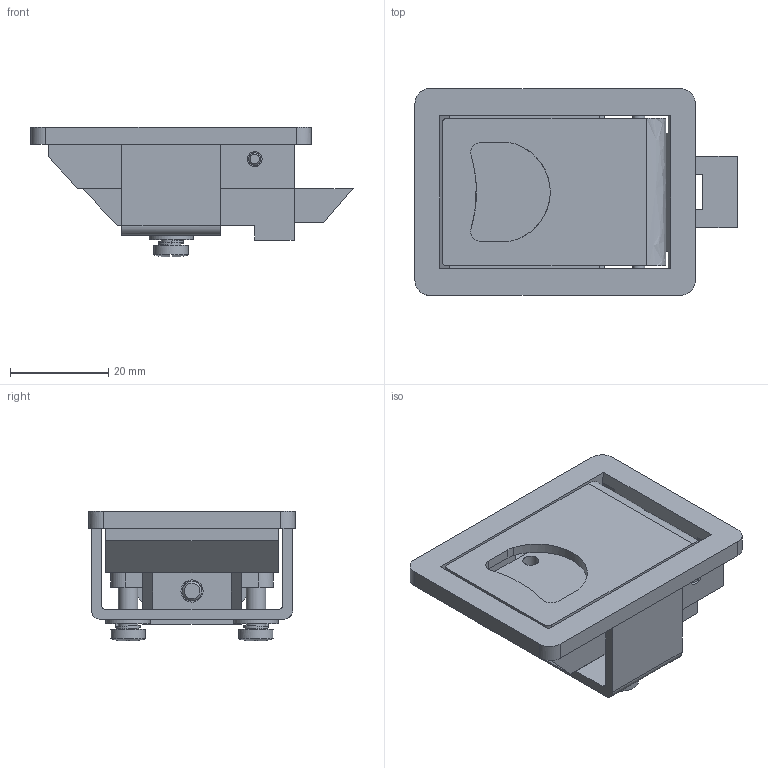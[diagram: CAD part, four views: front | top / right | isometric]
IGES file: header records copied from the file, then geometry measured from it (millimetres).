
Global section: file name: DR_LT-103; native system: Autodesk Inventor 2015; preprocessor: unknown; author: Administrator; date: 20170907.091445; units: millimetre
Bounding box: 65.5 x 42 x 26.4 mm (x, y, z)
Volume: 21778.9 mm3; surface area: 20235.3 mm2
Topology: 12 solids, 12 shells, 213 faces, 577 edges, 385 vertices
Faces by surface type: bspline 213
